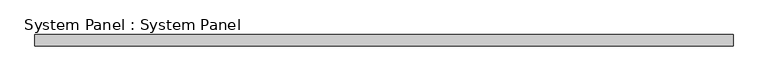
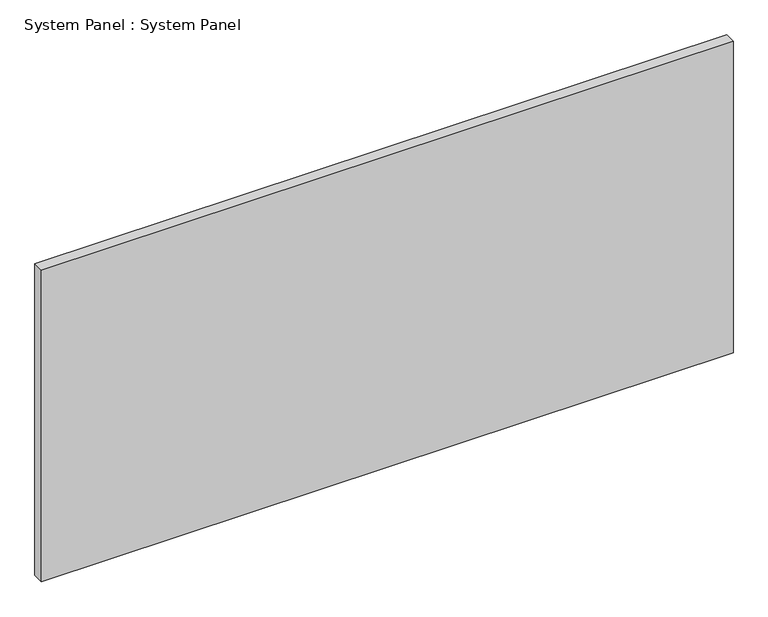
"""IFC4 building model written with IfcOpenShell, lengths in millimetres: plate geometry, System Panel : System Panel."""

import ifcopenshell
import ifcopenshell.guid

model = None  # the IFC model being written
_history = None  # IfcOwnerHistory: only IFC2X3 demands one
_inside = {}  # id of a spatial element -> (the spatial element, [elements in it])
_under = {}  # id of a project, library or spatial element -> (it, [spatial elements below it])
_declared = {}  # id of a project -> (the project, [libraries it declares])
_typed = {}  # id of a type object -> (the type object, [elements of that type])
_made_of = {}  # id of a material, layer set ... -> (it, [elements and type objects made of it])


def new_model(schema):
    """Start an empty IFC model of exactly this schema.

    Asked for "IFC4X3", IfcOpenShell would pick the latest addendum, in which some entities
    have other attributes; the version numbers below select the first issue.
    IFC2X3 requires an IfcOwnerHistory on every rooted entity: one is made here for all.
    """
    global model, _history
    if schema == "IFC4X3":
        model = ifcopenshell.file(schema_version=(4, 3, 0, 0))
    else:
        model = ifcopenshell.file(schema=schema)
    _inside.clear()
    _under.clear()
    _declared.clear()
    _typed.clear()
    _made_of.clear()
    _history = None
    if model.schema == "IFC2X3":
        org = make("IfcOrganization", Name="unknown")
        user = make(
            "IfcPersonAndOrganization",
            ThePerson=make("IfcPerson", FamilyName="unknown"),
            TheOrganization=org,
        )
        app = make(
            "IfcApplication",
            ApplicationDeveloper=org,
            Version="unknown",
            ApplicationFullName="unknown",
            ApplicationIdentifier="unknown",
        )
        _history = make(
            "IfcOwnerHistory",
            OwningUser=user,
            OwningApplication=app,
            ChangeAction="ADDED",
            CreationDate=0,
        )
    return model


def make(cls, **values):
    """One entity of the class cls with the attributes given. An attribute that is None is left unset."""
    return model.create_entity(
        cls, **{name: value for name, value in values.items() if value is not None}
    )


def rooted(cls, **values):
    """An entity with a GlobalId (a new one), such as an element, a storey or a relation."""
    return make(cls, GlobalId=ifcopenshell.guid.new(), OwnerHistory=_history, **values)


def si_unit(unit_type, name, prefix=None):
    """IfcSIUnit, for example si_unit("LENGTHUNIT", "METRE", prefix="MILLI")."""
    return make("IfcSIUnit", UnitType=unit_type, Prefix=prefix, Name=name)


def assignment(units):
    """IfcUnitAssignment: the units of a project."""
    return None if units is None else make("IfcUnitAssignment", Units=units)


def point(xyz):
    """IfcCartesianPoint."""
    return None if xyz is None else make("IfcCartesianPoint", Coordinates=xyz)


def direction(xyz):
    """IfcDirection."""
    return None if xyz is None else make("IfcDirection", DirectionRatios=xyz)


def frame(location, z_axis=None, x_axis=None):
    """IfcAxis2Placement3D, a coordinate frame: its origin and axes. An axis left out is left unset."""
    return make(
        "IfcAxis2Placement3D",
        Location=point(location),
        Axis=direction(z_axis),
        RefDirection=direction(x_axis),
    )


def origin():
    """The frame at (0, 0, 0) with its axes left unset."""
    return frame((0.0, 0.0, 0.0))


def origin_with_axes():
    """The frame at (0, 0, 0) with the z axis (0, 0, 1) and the x axis (1, 0, 0) written out."""
    return frame((0.0, 0.0, 0.0), z_axis=(0.0, 0.0, 1.0), x_axis=(1.0, 0.0, 0.0))


def place(relative_to, where):
    """IfcLocalPlacement: puts the frame where relative to a parent placement (None: the world)."""
    return make(
        "IfcLocalPlacement", PlacementRelTo=relative_to, RelativePlacement=where
    )


def context(
    kind, dimensions, precision=None, world=None, true_north=None, identifier=None
):
    """IfcGeometricRepresentationContext, for example the 3D "Model" context."""
    return make(
        "IfcGeometricRepresentationContext",
        ContextIdentifier=identifier,
        ContextType=kind,
        CoordinateSpaceDimension=dimensions,
        Precision=precision,
        WorldCoordinateSystem=world,
        TrueNorth=true_north,
    )


def project(units=None, contexts=None):
    """IfcProject with its units and contexts."""
    return rooted(
        "IfcProject",
        Name="project",
        RepresentationContexts=contexts,
        UnitsInContext=assignment(units),
    )


def spatial(cls, under=None, at=None, **own):
    """A site, building, storey or space (cls), placed at a placement, below another one or the project."""
    s = rooted(cls, ObjectPlacement=at, **own)
    if under is not None:
        _under.setdefault(under.id(), (under, []))[1].append(s)
    return s


def polyline(points):
    """IfcPolyline through the points."""
    return make("IfcPolyline", Points=[point(p) for p in points])


def outline(outer, holes=None, kind="AREA"):
    """IfcArbitraryClosedProfileDef: a profile drawn as a closed curve; with holes, ...WithVoids."""
    if holes is None:
        return make("IfcArbitraryClosedProfileDef", ProfileType=kind, OuterCurve=outer)
    return make(
        "IfcArbitraryProfileDefWithVoids",
        ProfileType=kind,
        OuterCurve=outer,
        InnerCurves=holes,
    )


def extrude(swept, where, along, depth):
    """IfcExtrudedAreaSolid: the profile swept, set in the frame where, extruded along a direction by depth."""
    return make(
        "IfcExtrudedAreaSolid",
        SweptArea=swept,
        Position=where,
        ExtrudedDirection=direction(along),
        Depth=depth,
    )


def shape(context_of_items, identifier, shape_type, items):
    """IfcShapeRepresentation: the items that make up one representation, for example the "Body"."""
    return make(
        "IfcShapeRepresentation",
        ContextOfItems=context_of_items,
        RepresentationIdentifier=identifier,
        RepresentationType=shape_type,
        Items=items,
    )


def source(mapping_origin, context_of_items, identifier, shape_type, items):
    """IfcRepresentationMap: a shape defined once, which mapped items show again and again."""
    return make(
        "IfcRepresentationMap",
        MappingOrigin=mapping_origin,
        MappedRepresentation=shape(context_of_items, identifier, shape_type, items),
    )


def transform(
    local_origin,
    x_axis=None,
    y_axis=None,
    z_axis=None,
    scale=None,
    scale2=None,
    scale3=None,
    uniform=True,
):
    """IfcCartesianTransformationOperator3D, or its non-uniform kind. x_axis, y_axis, z_axis: its Axis1, 2, 3."""
    if uniform:
        return make(
            "IfcCartesianTransformationOperator3D",
            Axis1=direction(x_axis),
            Axis2=direction(y_axis),
            LocalOrigin=point(local_origin),
            Scale=scale,
            Axis3=direction(z_axis),
        )
    return make(
        "IfcCartesianTransformationOperator3DnonUniform",
        Axis1=direction(x_axis),
        Axis2=direction(y_axis),
        LocalOrigin=point(local_origin),
        Scale=scale,
        Axis3=direction(z_axis),
        Scale2=scale2,
        Scale3=scale3,
    )


def mapped(mapping_source, mapping_target):
    """IfcMappedItem: shows the shape of a source again, moved by a transform."""
    return make(
        "IfcMappedItem", MappingSource=mapping_source, MappingTarget=mapping_target
    )


def made_of(thing, what):
    """Note that an element or type object is made of a material, layer set ...; save() writes the relation."""
    if what is not None:
        _made_of.setdefault(what.id(), (what, []))[1].append(thing)
    return thing


def element(
    cls,
    number,
    at=None,
    inside=None,
    cuts=None,
    type_object=None,
    material=None,
    context=None,
    identifier="Body",
    shape_type=None,
    held_by="IfcProductDefinitionShape",
    body=None,
    shapes=None,
    **own,
):
    """One element of the class cls, such as IfcWall. Its Tag is "e" and its number.

    at: its placement. inside: the storey or other place that contains it. cuts: it is an
    opening in that element (IfcRelVoidsElement). A single representation is given by context,
    identifier, shape_type and body (its items); several are given by shapes. held_by: the class
    of the entity that holds the representations. save() writes the other relations.
    """
    e = rooted(cls, Tag="e%d" % number, ObjectPlacement=at, **own)
    if body is not None:
        shapes = [shape(context, identifier, shape_type, body)]
    if shapes is not None:
        e.Representation = make(held_by, Representations=shapes)
    if inside is not None:
        _inside.setdefault(inside.id(), (inside, []))[1].append(e)
    if cuts is not None:
        rooted(
            "IfcRelVoidsElement", RelatingBuildingElement=cuts, RelatedOpeningElement=e
        )
    if type_object is not None:
        _typed.setdefault(type_object.id(), (type_object, []))[1].append(e)
    return made_of(e, material)


def aggregate(whole, parts):
    """IfcRelAggregates: a whole, such as a stair, and the parts it consists of."""
    return rooted("IfcRelAggregates", RelatingObject=whole, RelatedObjects=parts)


def save(model, path):
    """Write the relations noted so far, then the file.

    IfcRelAggregates (storeys below a building ...), IfcRelContainedInSpatialStructure (elements
    in a storey), IfcRelDefinesByType, IfcRelAssociatesMaterial and IfcRelDeclares: one each for
    every whole, place, type object, material and project.
    """
    for whole, parts in _under.values():
        aggregate(whole, parts)
    for where, things in _inside.values():
        rooted(
            "IfcRelContainedInSpatialStructure",
            RelatedElements=things,
            RelatingStructure=where,
        )
    for kind, things in _typed.values():
        rooted("IfcRelDefinesByType", RelatedObjects=things, RelatingType=kind)
    for what, things in _made_of.values():
        rooted("IfcRelAssociatesMaterial", RelatedObjects=things, RelatingMaterial=what)
    for by, libraries in _declared.values():
        rooted("IfcRelDeclares", RelatingContext=by, RelatedDefinitions=libraries)
    model.write(path)


def system_panel_system_panel_d2f40076(model_context):
    return source(origin(), model_context, "Body", "SweptSolid", [
        extrude(outline(polyline([(793.75, 19.05), (-793.75, 19.05), (-793.75, 44.45), (793.75, 44.45), (793.75, 19.05)])), origin_with_axes(), (0.0, 0.0, 1.0), 755.65),
    ])


if __name__ == "__main__":
    model = new_model("IFC4")
    model_context = context("Model", 3, world=origin())
    ifc_project = project(units=[si_unit("LENGTHUNIT", "METRE", prefix="MILLI")], contexts=[model_context])
    site = spatial("IfcSite", under=ifc_project)
    building = spatial("IfcBuilding", under=site)
    placement = place(None, origin())
    system_panel_system_panel_shape = system_panel_system_panel_d2f40076(model_context)
    element("IfcPlate", 1, ObjectType="System Panel : System Panel", at=placement, inside=building, context=model_context, shape_type="MappedRepresentation", body=[
        mapped(system_panel_system_panel_shape, transform((0.0, 0.0, 0.0), x_axis=(1.0, 0.0, 0.0), y_axis=(0.0, 1.0, 0.0), z_axis=(0.0, 0.0, 1.0))),
    ])
    save(model, "model.ifc")
